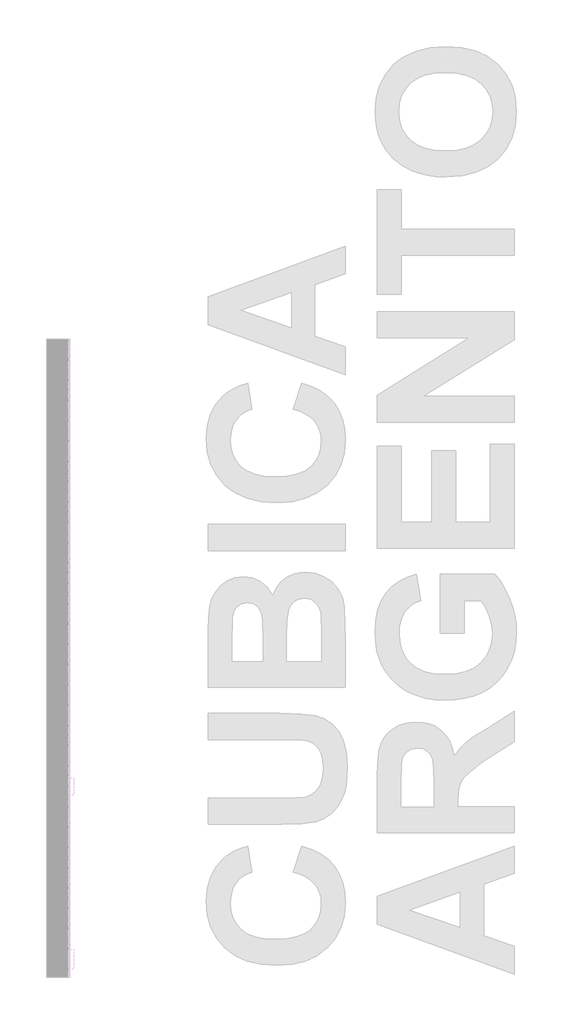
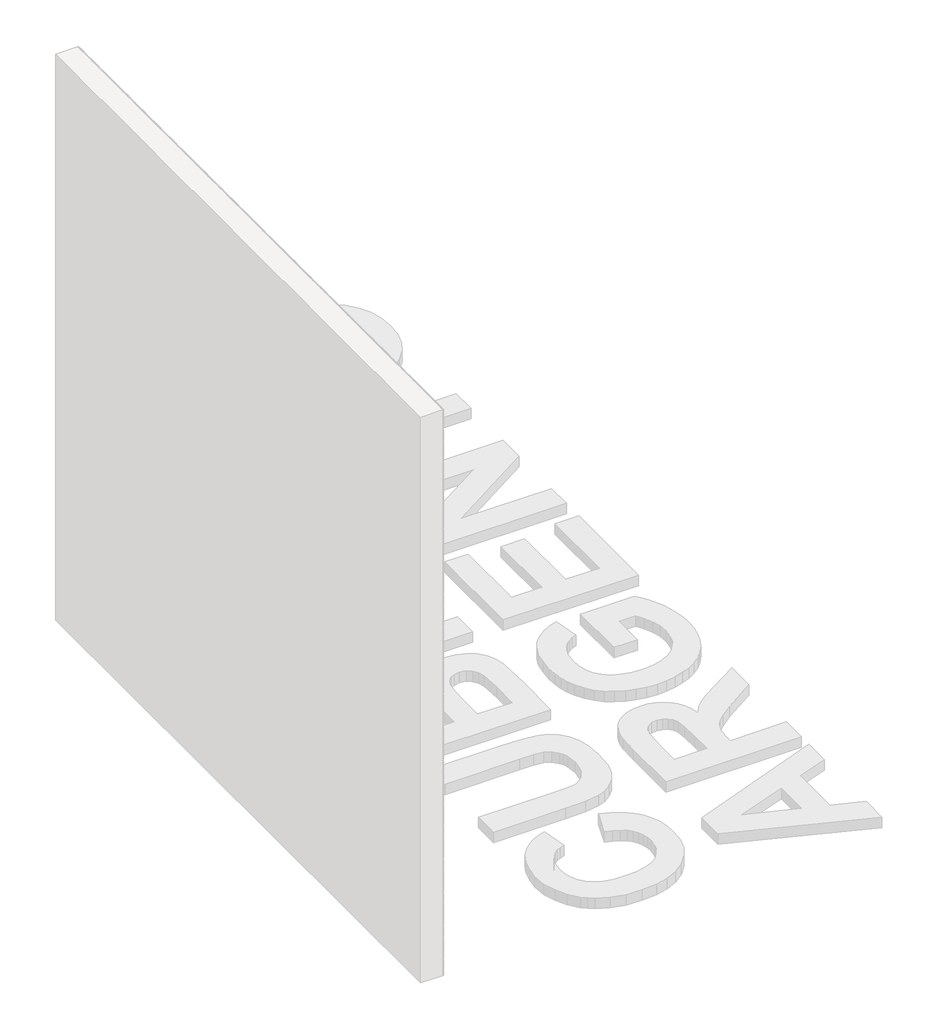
# One storey, part 19 of 121: 145 proxies.
"""IFC4 building model written with IfcOpenShell, lengths in millimetres."""

from ifc_helpers import new_model, si_unit, origin, place, context, project, spatial, transform, mapped, element, save
from components import generic_models_b2b2c5c1, generic_models_9bf73f6f, generic_models_5d175859

model = new_model("IFC4")

# Units and contexts
model_context = context("Model", 3, world=origin())
ifc_project = project(units=[si_unit("LENGTHUNIT", "METRE", prefix="MILLI")], contexts=[model_context])

# Site, building, storey
site = spatial("IfcSite", under=ifc_project)
building = spatial("IfcBuilding", under=site)
storey = spatial("IfcBuildingStorey", under=building, Name="PORTOBELLO - SHOWROOM", Elevation=0.0)

# Proxies
placement = place(None, origin())
generic_models_shape = generic_models_b2b2c5c1(model_context)
element("IfcBuildingElementProxy", 1, Name="PBSHOP - CUBICA ARGENTO 4,8X8,3 : CUBICA ARGENTO - POSIÇÃO 01", ObjectType="PBSHOP - CUBICA ARGENTO 4,8X8,3 : CUBICA ARGENTO - POSIÇÃO 01", at=placement, inside=storey, context=model_context, shape_type="MappedRepresentation", body=[
    mapped(generic_models_shape, transform((150369.5341846, -4223.3097926, 2091.7227645), x_axis=(0.0, 1.0, 0.0), y_axis=(0.0, 0.0, 1.0), z_axis=(1.0, 0.0, 0.0))),
])
element("IfcBuildingElementProxy", 2, Name="PBSHOP - CUBICA ARGENTO 4,8X8,3 : CUBICA ARGENTO - POSIÇÃO 01", ObjectType="PBSHOP - CUBICA ARGENTO 4,8X8,3 : CUBICA ARGENTO - POSIÇÃO 01", at=placement, inside=storey, context=model_context, shape_type="MappedRepresentation", body=[
    mapped(generic_models_shape, transform((150369.5341846, -4132.4705233, 2091.7227645), x_axis=(0.0, 1.0, 0.0), y_axis=(0.0, 0.0, 1.0), z_axis=(1.0, 0.0, 0.0))),
])
element("IfcBuildingElementProxy", 3, Name="PBSHOP - CUBICA ARGENTO 4,8X8,3 : CUBICA ARGENTO - POSIÇÃO 01", ObjectType="PBSHOP - CUBICA ARGENTO 4,8X8,3 : CUBICA ARGENTO - POSIÇÃO 01", at=placement, inside=storey, context=model_context, shape_type="MappedRepresentation", body=[
    mapped(generic_models_shape, transform((150369.5341846, -4041.6312541, 2091.7227645), x_axis=(0.0, 1.0, 0.0), y_axis=(0.0, 0.0, 1.0), z_axis=(1.0, 0.0, 0.0))),
])
element("IfcBuildingElementProxy", 4, Name="PBSHOP - CUBICA ARGENTO 4,8X8,3 : CUBICA ARGENTO - POSIÇÃO 01", ObjectType="PBSHOP - CUBICA ARGENTO 4,8X8,3 : CUBICA ARGENTO - POSIÇÃO 01", at=placement, inside=storey, context=model_context, shape_type="MappedRepresentation", body=[
    mapped(generic_models_shape, transform((150369.5341846, -4995.4435811, 2170.6574029), x_axis=(0.0, 1.0, 0.0), y_axis=(0.0, 0.0, 1.0), z_axis=(1.0, 0.0, 0.0))),
])
element("IfcBuildingElementProxy", 5, Name="PBSHOP - CUBICA ARGENTO 4,8X8,3 : CUBICA ARGENTO - POSIÇÃO 01", ObjectType="PBSHOP - CUBICA ARGENTO 4,8X8,3 : CUBICA ARGENTO - POSIÇÃO 01", at=placement, inside=storey, context=model_context, shape_type="MappedRepresentation", body=[
    mapped(generic_models_shape, transform((150369.5341846, -4904.6043119, 2170.6574029), x_axis=(0.0, 1.0, 0.0), y_axis=(0.0, 0.0, 1.0), z_axis=(1.0, 0.0, 0.0))),
])
element("IfcBuildingElementProxy", 6, Name="PBSHOP - CUBICA ARGENTO 4,8X8,3 : CUBICA ARGENTO - POSIÇÃO 01", ObjectType="PBSHOP - CUBICA ARGENTO 4,8X8,3 : CUBICA ARGENTO - POSIÇÃO 01", at=placement, inside=storey, context=model_context, shape_type="MappedRepresentation", body=[
    mapped(generic_models_shape, transform((150369.5341846, -4813.7650427, 2170.6574029), x_axis=(0.0, 1.0, 0.0), y_axis=(0.0, 0.0, 1.0), z_axis=(1.0, 0.0, 0.0))),
])
element("IfcBuildingElementProxy", 7, Name="PBSHOP - CUBICA ARGENTO 4,8X8,3 : CUBICA ARGENTO - POSIÇÃO 01", ObjectType="PBSHOP - CUBICA ARGENTO 4,8X8,3 : CUBICA ARGENTO - POSIÇÃO 01", at=placement, inside=storey, context=model_context, shape_type="MappedRepresentation", body=[
    mapped(generic_models_shape, transform((150369.5341846, -4722.9257734, 2170.6574029), x_axis=(0.0, 1.0, 0.0), y_axis=(0.0, 0.0, 1.0), z_axis=(1.0, 0.0, 0.0))),
])
element("IfcBuildingElementProxy", 8, Name="PBSHOP - CUBICA ARGENTO 4,8X8,3 : CUBICA ARGENTO - POSIÇÃO 01", ObjectType="PBSHOP - CUBICA ARGENTO 4,8X8,3 : CUBICA ARGENTO - POSIÇÃO 01", at=placement, inside=storey, context=model_context, shape_type="MappedRepresentation", body=[
    mapped(generic_models_shape, transform((150369.5341846, -4632.0865042, 2170.6574029), x_axis=(0.0, 1.0, 0.0), y_axis=(0.0, 0.0, 1.0), z_axis=(1.0, 0.0, 0.0))),
])
element("IfcBuildingElementProxy", 9, Name="PBSHOP - CUBICA ARGENTO 4,8X8,3 : CUBICA ARGENTO - POSIÇÃO 01", ObjectType="PBSHOP - CUBICA ARGENTO 4,8X8,3 : CUBICA ARGENTO - POSIÇÃO 01", at=placement, inside=storey, context=model_context, shape_type="MappedRepresentation", body=[
    mapped(generic_models_shape, transform((150369.5341846, -4541.2472349, 2170.6574029), x_axis=(0.0, 1.0, 0.0), y_axis=(0.0, 0.0, 1.0), z_axis=(1.0, 0.0, 0.0))),
])
element("IfcBuildingElementProxy", 10, Name="PBSHOP - CUBICA ARGENTO 4,8X8,3 : CUBICA ARGENTO - POSIÇÃO 01", ObjectType="PBSHOP - CUBICA ARGENTO 4,8X8,3 : CUBICA ARGENTO - POSIÇÃO 01", at=placement, inside=storey, context=model_context, shape_type="MappedRepresentation", body=[
    mapped(generic_models_shape, transform((150369.5341846, -4450.4079657, 2170.6574029), x_axis=(0.0, 1.0, 0.0), y_axis=(0.0, 0.0, 1.0), z_axis=(1.0, 0.0, 0.0))),
])
element("IfcBuildingElementProxy", 11, Name="PBSHOP - CUBICA ARGENTO 4,8X8,3 : CUBICA ARGENTO - POSIÇÃO 01", ObjectType="PBSHOP - CUBICA ARGENTO 4,8X8,3 : CUBICA ARGENTO - POSIÇÃO 01", at=placement, inside=storey, context=model_context, shape_type="MappedRepresentation", body=[
    mapped(generic_models_shape, transform((150369.5341846, -4359.5686964, 2170.6574029), x_axis=(0.0, 1.0, 0.0), y_axis=(0.0, 0.0, 1.0), z_axis=(1.0, 0.0, 0.0))),
])
element("IfcBuildingElementProxy", 12, Name="PBSHOP - CUBICA ARGENTO 4,8X8,3 : CUBICA ARGENTO - POSIÇÃO 01", ObjectType="PBSHOP - CUBICA ARGENTO 4,8X8,3 : CUBICA ARGENTO - POSIÇÃO 01", at=placement, inside=storey, context=model_context, shape_type="MappedRepresentation", body=[
    mapped(generic_models_shape, transform((150369.5341846, -4268.7294272, 2170.6574029), x_axis=(0.0, 1.0, 0.0), y_axis=(0.0, 0.0, 1.0), z_axis=(1.0, 0.0, 0.0))),
])
element("IfcBuildingElementProxy", 13, Name="PBSHOP - CUBICA ARGENTO 4,8X8,3 : CUBICA ARGENTO - POSIÇÃO 01", ObjectType="PBSHOP - CUBICA ARGENTO 4,8X8,3 : CUBICA ARGENTO - POSIÇÃO 01", at=placement, inside=storey, context=model_context, shape_type="MappedRepresentation", body=[
    mapped(generic_models_shape, transform((150369.5341846, -4177.890158, 2170.6574029), x_axis=(0.0, 1.0, 0.0), y_axis=(0.0, 0.0, 1.0), z_axis=(1.0, 0.0, 0.0))),
])
element("IfcBuildingElementProxy", 14, Name="PBSHOP - CUBICA ARGENTO 4,8X8,3 : CUBICA ARGENTO - POSIÇÃO 01", ObjectType="PBSHOP - CUBICA ARGENTO 4,8X8,3 : CUBICA ARGENTO - POSIÇÃO 01", at=placement, inside=storey, context=model_context, shape_type="MappedRepresentation", body=[
    mapped(generic_models_shape, transform((150369.5341846, -4087.0508887, 2170.6574029), x_axis=(0.0, 1.0, 0.0), y_axis=(0.0, 0.0, 1.0), z_axis=(1.0, 0.0, 0.0))),
])
element("IfcBuildingElementProxy", 15, Name="PBSHOP - CUBICA ARGENTO 4,8X8,3 : CUBICA ARGENTO - POSIÇÃO 01", ObjectType="PBSHOP - CUBICA ARGENTO 4,8X8,3 : CUBICA ARGENTO - POSIÇÃO 01", at=placement, inside=storey, context=model_context, shape_type="MappedRepresentation", body=[
    mapped(generic_models_shape, transform((150369.5341846, -4950.0239465, 2249.5920413), x_axis=(0.0, 1.0, 0.0), y_axis=(0.0, 0.0, 1.0), z_axis=(1.0, 0.0, 0.0))),
])
element("IfcBuildingElementProxy", 16, Name="PBSHOP - CUBICA ARGENTO 4,8X8,3 : CUBICA ARGENTO - POSIÇÃO 01", ObjectType="PBSHOP - CUBICA ARGENTO 4,8X8,3 : CUBICA ARGENTO - POSIÇÃO 01", at=placement, inside=storey, context=model_context, shape_type="MappedRepresentation", body=[
    mapped(generic_models_shape, transform((150369.5341846, -4859.1846773, 2249.5920413), x_axis=(0.0, 1.0, 0.0), y_axis=(0.0, 0.0, 1.0), z_axis=(1.0, 0.0, 0.0))),
])
element("IfcBuildingElementProxy", 17, Name="PBSHOP - CUBICA ARGENTO 4,8X8,3 : CUBICA ARGENTO - POSIÇÃO 01", ObjectType="PBSHOP - CUBICA ARGENTO 4,8X8,3 : CUBICA ARGENTO - POSIÇÃO 01", at=placement, inside=storey, context=model_context, shape_type="MappedRepresentation", body=[
    mapped(generic_models_shape, transform((150369.5341846, -4768.345408, 2249.5920413), x_axis=(0.0, 1.0, 0.0), y_axis=(0.0, 0.0, 1.0), z_axis=(1.0, 0.0, 0.0))),
])
element("IfcBuildingElementProxy", 18, Name="PBSHOP - CUBICA ARGENTO 4,8X8,3 : CUBICA ARGENTO - POSIÇÃO 01", ObjectType="PBSHOP - CUBICA ARGENTO 4,8X8,3 : CUBICA ARGENTO - POSIÇÃO 01", at=placement, inside=storey, context=model_context, shape_type="MappedRepresentation", body=[
    mapped(generic_models_shape, transform((150369.5341846, -4677.5061388, 2249.5920413), x_axis=(0.0, 1.0, 0.0), y_axis=(0.0, 0.0, 1.0), z_axis=(1.0, 0.0, 0.0))),
])
element("IfcBuildingElementProxy", 19, Name="PBSHOP - CUBICA ARGENTO 4,8X8,3 : CUBICA ARGENTO - POSIÇÃO 01", ObjectType="PBSHOP - CUBICA ARGENTO 4,8X8,3 : CUBICA ARGENTO - POSIÇÃO 01", at=placement, inside=storey, context=model_context, shape_type="MappedRepresentation", body=[
    mapped(generic_models_shape, transform((150369.5341846, -4586.6668696, 2249.5920413), x_axis=(0.0, 1.0, 0.0), y_axis=(0.0, 0.0, 1.0), z_axis=(1.0, 0.0, 0.0))),
])
element("IfcBuildingElementProxy", 20, Name="PBSHOP - CUBICA ARGENTO 4,8X8,3 : CUBICA ARGENTO - POSIÇÃO 01", ObjectType="PBSHOP - CUBICA ARGENTO 4,8X8,3 : CUBICA ARGENTO - POSIÇÃO 01", at=placement, inside=storey, context=model_context, shape_type="MappedRepresentation", body=[
    mapped(generic_models_shape, transform((150369.5341846, -4495.8276003, 2249.5920413), x_axis=(0.0, 1.0, 0.0), y_axis=(0.0, 0.0, 1.0), z_axis=(1.0, 0.0, 0.0))),
])
element("IfcBuildingElementProxy", 21, Name="PBSHOP - CUBICA ARGENTO 4,8X8,3 : CUBICA ARGENTO - POSIÇÃO 01", ObjectType="PBSHOP - CUBICA ARGENTO 4,8X8,3 : CUBICA ARGENTO - POSIÇÃO 01", at=placement, inside=storey, context=model_context, shape_type="MappedRepresentation", body=[
    mapped(generic_models_shape, transform((150369.5341846, -4404.9883311, 2249.5920413), x_axis=(0.0, 1.0, 0.0), y_axis=(0.0, 0.0, 1.0), z_axis=(1.0, 0.0, 0.0))),
])
element("IfcBuildingElementProxy", 22, Name="PBSHOP - CUBICA ARGENTO 4,8X8,3 : CUBICA ARGENTO - POSIÇÃO 01", ObjectType="PBSHOP - CUBICA ARGENTO 4,8X8,3 : CUBICA ARGENTO - POSIÇÃO 01", at=placement, inside=storey, context=model_context, shape_type="MappedRepresentation", body=[
    mapped(generic_models_shape, transform((150369.5341846, -4314.1490618, 2249.5920413), x_axis=(0.0, 1.0, 0.0), y_axis=(0.0, 0.0, 1.0), z_axis=(1.0, 0.0, 0.0))),
])
element("IfcBuildingElementProxy", 23, Name="PBSHOP - CUBICA ARGENTO 4,8X8,3 : CUBICA ARGENTO - POSIÇÃO 01", ObjectType="PBSHOP - CUBICA ARGENTO 4,8X8,3 : CUBICA ARGENTO - POSIÇÃO 01", at=placement, inside=storey, context=model_context, shape_type="MappedRepresentation", body=[
    mapped(generic_models_shape, transform((150369.5341846, -4223.3097926, 2249.5920413), x_axis=(0.0, 1.0, 0.0), y_axis=(0.0, 0.0, 1.0), z_axis=(1.0, 0.0, 0.0))),
])
element("IfcBuildingElementProxy", 24, Name="PBSHOP - CUBICA ARGENTO 4,8X8,3 : CUBICA ARGENTO - POSIÇÃO 01", ObjectType="PBSHOP - CUBICA ARGENTO 4,8X8,3 : CUBICA ARGENTO - POSIÇÃO 01", at=placement, inside=storey, context=model_context, shape_type="MappedRepresentation", body=[
    mapped(generic_models_shape, transform((150369.5341846, -4132.4705233, 2249.5920413), x_axis=(0.0, 1.0, 0.0), y_axis=(0.0, 0.0, 1.0), z_axis=(1.0, 0.0, 0.0))),
])
element("IfcBuildingElementProxy", 25, Name="PBSHOP - CUBICA ARGENTO 4,8X8,3 : CUBICA ARGENTO - POSIÇÃO 01", ObjectType="PBSHOP - CUBICA ARGENTO 4,8X8,3 : CUBICA ARGENTO - POSIÇÃO 01", at=placement, inside=storey, context=model_context, shape_type="MappedRepresentation", body=[
    mapped(generic_models_shape, transform((150369.5341846, -4041.6312541, 2249.5920413), x_axis=(0.0, 1.0, 0.0), y_axis=(0.0, 0.0, 1.0), z_axis=(1.0, 0.0, 0.0))),
])
element("IfcBuildingElementProxy", 26, Name="PBSHOP - CUBICA ARGENTO 4,8X8,3 : CUBICA ARGENTO - POSIÇÃO 01", ObjectType="PBSHOP - CUBICA ARGENTO 4,8X8,3 : CUBICA ARGENTO - POSIÇÃO 01", at=placement, inside=storey, context=model_context, shape_type="MappedRepresentation", body=[
    mapped(generic_models_shape, transform((150369.5341846, -4995.4435811, 2328.5266797), x_axis=(0.0, 1.0, 0.0), y_axis=(0.0, 0.0, 1.0), z_axis=(1.0, 0.0, 0.0))),
])
element("IfcBuildingElementProxy", 27, Name="PBSHOP - CUBICA ARGENTO 4,8X8,3 : CUBICA ARGENTO - POSIÇÃO 01", ObjectType="PBSHOP - CUBICA ARGENTO 4,8X8,3 : CUBICA ARGENTO - POSIÇÃO 01", at=placement, inside=storey, context=model_context, shape_type="MappedRepresentation", body=[
    mapped(generic_models_shape, transform((150369.5341846, -4904.6043119, 2328.5266797), x_axis=(0.0, 1.0, 0.0), y_axis=(0.0, 0.0, 1.0), z_axis=(1.0, 0.0, 0.0))),
])
element("IfcBuildingElementProxy", 28, Name="PBSHOP - CUBICA ARGENTO 4,8X8,3 : CUBICA ARGENTO - POSIÇÃO 01", ObjectType="PBSHOP - CUBICA ARGENTO 4,8X8,3 : CUBICA ARGENTO - POSIÇÃO 01", at=placement, inside=storey, context=model_context, shape_type="MappedRepresentation", body=[
    mapped(generic_models_shape, transform((150369.5341846, -4813.7650427, 2328.5266797), x_axis=(0.0, 1.0, 0.0), y_axis=(0.0, 0.0, 1.0), z_axis=(1.0, 0.0, 0.0))),
])
element("IfcBuildingElementProxy", 29, Name="PBSHOP - CUBICA ARGENTO 4,8X8,3 : CUBICA ARGENTO - POSIÇÃO 01", ObjectType="PBSHOP - CUBICA ARGENTO 4,8X8,3 : CUBICA ARGENTO - POSIÇÃO 01", at=placement, inside=storey, context=model_context, shape_type="MappedRepresentation", body=[
    mapped(generic_models_shape, transform((150369.5341846, -4722.9257734, 2328.5266797), x_axis=(0.0, 1.0, 0.0), y_axis=(0.0, 0.0, 1.0), z_axis=(1.0, 0.0, 0.0))),
])
element("IfcBuildingElementProxy", 30, Name="PBSHOP - CUBICA ARGENTO 4,8X8,3 : CUBICA ARGENTO - POSIÇÃO 01", ObjectType="PBSHOP - CUBICA ARGENTO 4,8X8,3 : CUBICA ARGENTO - POSIÇÃO 01", at=placement, inside=storey, context=model_context, shape_type="MappedRepresentation", body=[
    mapped(generic_models_shape, transform((150369.5341846, -4632.0865042, 2328.5266797), x_axis=(0.0, 1.0, 0.0), y_axis=(0.0, 0.0, 1.0), z_axis=(1.0, 0.0, 0.0))),
])
element("IfcBuildingElementProxy", 31, Name="PBSHOP - CUBICA ARGENTO 4,8X8,3 : CUBICA ARGENTO - POSIÇÃO 01", ObjectType="PBSHOP - CUBICA ARGENTO 4,8X8,3 : CUBICA ARGENTO - POSIÇÃO 01", at=placement, inside=storey, context=model_context, shape_type="MappedRepresentation", body=[
    mapped(generic_models_shape, transform((150369.5341846, -4541.2472349, 2328.5266797), x_axis=(0.0, 1.0, 0.0), y_axis=(0.0, 0.0, 1.0), z_axis=(1.0, 0.0, 0.0))),
])
element("IfcBuildingElementProxy", 32, Name="PBSHOP - CUBICA ARGENTO 4,8X8,3 : CUBICA ARGENTO - POSIÇÃO 01", ObjectType="PBSHOP - CUBICA ARGENTO 4,8X8,3 : CUBICA ARGENTO - POSIÇÃO 01", at=placement, inside=storey, context=model_context, shape_type="MappedRepresentation", body=[
    mapped(generic_models_shape, transform((150369.5341846, -4450.4079657, 2328.5266797), x_axis=(0.0, 1.0, 0.0), y_axis=(0.0, 0.0, 1.0), z_axis=(1.0, 0.0, 0.0))),
])
element("IfcBuildingElementProxy", 33, Name="PBSHOP - CUBICA ARGENTO 4,8X8,3 : CUBICA ARGENTO - POSIÇÃO 01", ObjectType="PBSHOP - CUBICA ARGENTO 4,8X8,3 : CUBICA ARGENTO - POSIÇÃO 01", at=placement, inside=storey, context=model_context, shape_type="MappedRepresentation", body=[
    mapped(generic_models_shape, transform((150369.5341846, -4359.5686964, 2328.5266797), x_axis=(0.0, 1.0, 0.0), y_axis=(0.0, 0.0, 1.0), z_axis=(1.0, 0.0, 0.0))),
])
element("IfcBuildingElementProxy", 34, Name="PBSHOP - CUBICA ARGENTO 4,8X8,3 : CUBICA ARGENTO - POSIÇÃO 01", ObjectType="PBSHOP - CUBICA ARGENTO 4,8X8,3 : CUBICA ARGENTO - POSIÇÃO 01", at=placement, inside=storey, context=model_context, shape_type="MappedRepresentation", body=[
    mapped(generic_models_shape, transform((150369.5341846, -4268.7294272, 2328.5266797), x_axis=(0.0, 1.0, 0.0), y_axis=(0.0, 0.0, 1.0), z_axis=(1.0, 0.0, 0.0))),
])
element("IfcBuildingElementProxy", 35, Name="PBSHOP - CUBICA ARGENTO 4,8X8,3 : CUBICA ARGENTO - POSIÇÃO 01", ObjectType="PBSHOP - CUBICA ARGENTO 4,8X8,3 : CUBICA ARGENTO - POSIÇÃO 01", at=placement, inside=storey, context=model_context, shape_type="MappedRepresentation", body=[
    mapped(generic_models_shape, transform((150369.5341846, -4177.890158, 2328.5266797), x_axis=(0.0, 1.0, 0.0), y_axis=(0.0, 0.0, 1.0), z_axis=(1.0, 0.0, 0.0))),
])
element("IfcBuildingElementProxy", 36, Name="PBSHOP - CUBICA ARGENTO 4,8X8,3 : CUBICA ARGENTO - POSIÇÃO 01", ObjectType="PBSHOP - CUBICA ARGENTO 4,8X8,3 : CUBICA ARGENTO - POSIÇÃO 01", at=placement, inside=storey, context=model_context, shape_type="MappedRepresentation", body=[
    mapped(generic_models_shape, transform((150369.5341846, -4087.0508887, 2328.5266797), x_axis=(0.0, 1.0, 0.0), y_axis=(0.0, 0.0, 1.0), z_axis=(1.0, 0.0, 0.0))),
])
element("IfcBuildingElementProxy", 37, Name="PBSHOP - CUBICA ARGENTO 4,8X8,3 : CUBICA ARGENTO - POSIÇÃO 01", ObjectType="PBSHOP - CUBICA ARGENTO 4,8X8,3 : CUBICA ARGENTO - POSIÇÃO 01", at=placement, inside=storey, context=model_context, shape_type="MappedRepresentation", body=[
    mapped(generic_models_shape, transform((150369.5341846, -4950.0239465, 2407.461318), x_axis=(0.0, 1.0, 0.0), y_axis=(0.0, 0.0, 1.0), z_axis=(1.0, 0.0, 0.0))),
])
element("IfcBuildingElementProxy", 38, Name="PBSHOP - CUBICA ARGENTO 4,8X8,3 : CUBICA ARGENTO - POSIÇÃO 01", ObjectType="PBSHOP - CUBICA ARGENTO 4,8X8,3 : CUBICA ARGENTO - POSIÇÃO 01", at=placement, inside=storey, context=model_context, shape_type="MappedRepresentation", body=[
    mapped(generic_models_shape, transform((150369.5341846, -4859.1846773, 2407.461318), x_axis=(0.0, 1.0, 0.0), y_axis=(0.0, 0.0, 1.0), z_axis=(1.0, 0.0, 0.0))),
])
element("IfcBuildingElementProxy", 39, Name="PBSHOP - CUBICA ARGENTO 4,8X8,3 : CUBICA ARGENTO - POSIÇÃO 01", ObjectType="PBSHOP - CUBICA ARGENTO 4,8X8,3 : CUBICA ARGENTO - POSIÇÃO 01", at=placement, inside=storey, context=model_context, shape_type="MappedRepresentation", body=[
    mapped(generic_models_shape, transform((150369.5341846, -4768.345408, 2407.461318), x_axis=(0.0, 1.0, 0.0), y_axis=(0.0, 0.0, 1.0), z_axis=(1.0, 0.0, 0.0))),
])
element("IfcBuildingElementProxy", 40, Name="PBSHOP - CUBICA ARGENTO 4,8X8,3 : CUBICA ARGENTO - POSIÇÃO 01", ObjectType="PBSHOP - CUBICA ARGENTO 4,8X8,3 : CUBICA ARGENTO - POSIÇÃO 01", at=placement, inside=storey, context=model_context, shape_type="MappedRepresentation", body=[
    mapped(generic_models_shape, transform((150369.5341846, -4677.5061388, 2407.461318), x_axis=(0.0, 1.0, 0.0), y_axis=(0.0, 0.0, 1.0), z_axis=(1.0, 0.0, 0.0))),
])
element("IfcBuildingElementProxy", 41, Name="PBSHOP - CUBICA ARGENTO 4,8X8,3 : CUBICA ARGENTO - POSIÇÃO 01", ObjectType="PBSHOP - CUBICA ARGENTO 4,8X8,3 : CUBICA ARGENTO - POSIÇÃO 01", at=placement, inside=storey, context=model_context, shape_type="MappedRepresentation", body=[
    mapped(generic_models_shape, transform((150369.5341846, -4586.6668696, 2407.461318), x_axis=(0.0, 1.0, 0.0), y_axis=(0.0, 0.0, 1.0), z_axis=(1.0, 0.0, 0.0))),
])
element("IfcBuildingElementProxy", 42, Name="PBSHOP - CUBICA ARGENTO 4,8X8,3 : CUBICA ARGENTO - POSIÇÃO 01", ObjectType="PBSHOP - CUBICA ARGENTO 4,8X8,3 : CUBICA ARGENTO - POSIÇÃO 01", at=placement, inside=storey, context=model_context, shape_type="MappedRepresentation", body=[
    mapped(generic_models_shape, transform((150369.5341846, -4495.8276003, 2407.461318), x_axis=(0.0, 1.0, 0.0), y_axis=(0.0, 0.0, 1.0), z_axis=(1.0, 0.0, 0.0))),
])
element("IfcBuildingElementProxy", 43, Name="PBSHOP - CUBICA ARGENTO 4,8X8,3 : CUBICA ARGENTO - POSIÇÃO 01", ObjectType="PBSHOP - CUBICA ARGENTO 4,8X8,3 : CUBICA ARGENTO - POSIÇÃO 01", at=placement, inside=storey, context=model_context, shape_type="MappedRepresentation", body=[
    mapped(generic_models_shape, transform((150369.5341846, -4404.9883311, 2407.461318), x_axis=(0.0, 1.0, 0.0), y_axis=(0.0, 0.0, 1.0), z_axis=(1.0, 0.0, 0.0))),
])
element("IfcBuildingElementProxy", 44, Name="PBSHOP - CUBICA ARGENTO 4,8X8,3 : CUBICA ARGENTO - POSIÇÃO 01", ObjectType="PBSHOP - CUBICA ARGENTO 4,8X8,3 : CUBICA ARGENTO - POSIÇÃO 01", at=placement, inside=storey, context=model_context, shape_type="MappedRepresentation", body=[
    mapped(generic_models_shape, transform((150369.5341846, -4314.1490618, 2407.461318), x_axis=(0.0, 1.0, 0.0), y_axis=(0.0, 0.0, 1.0), z_axis=(1.0, 0.0, 0.0))),
])
element("IfcBuildingElementProxy", 45, Name="PBSHOP - CUBICA ARGENTO 4,8X8,3 : CUBICA ARGENTO - POSIÇÃO 01", ObjectType="PBSHOP - CUBICA ARGENTO 4,8X8,3 : CUBICA ARGENTO - POSIÇÃO 01", at=placement, inside=storey, context=model_context, shape_type="MappedRepresentation", body=[
    mapped(generic_models_shape, transform((150369.5341846, -4223.3097926, 2407.461318), x_axis=(0.0, 1.0, 0.0), y_axis=(0.0, 0.0, 1.0), z_axis=(1.0, 0.0, 0.0))),
])
element("IfcBuildingElementProxy", 46, Name="PBSHOP - CUBICA ARGENTO 4,8X8,3 : CUBICA ARGENTO - POSIÇÃO 01", ObjectType="PBSHOP - CUBICA ARGENTO 4,8X8,3 : CUBICA ARGENTO - POSIÇÃO 01", at=placement, inside=storey, context=model_context, shape_type="MappedRepresentation", body=[
    mapped(generic_models_shape, transform((150369.5341846, -4132.4705233, 2407.461318), x_axis=(0.0, 1.0, 0.0), y_axis=(0.0, 0.0, 1.0), z_axis=(1.0, 0.0, 0.0))),
])
element("IfcBuildingElementProxy", 47, Name="PBSHOP - CUBICA ARGENTO 4,8X8,3 : CUBICA ARGENTO - POSIÇÃO 01", ObjectType="PBSHOP - CUBICA ARGENTO 4,8X8,3 : CUBICA ARGENTO - POSIÇÃO 01", at=placement, inside=storey, context=model_context, shape_type="MappedRepresentation", body=[
    mapped(generic_models_shape, transform((150369.5341846, -4041.6312541, 2407.461318), x_axis=(0.0, 1.0, 0.0), y_axis=(0.0, 0.0, 1.0), z_axis=(1.0, 0.0, 0.0))),
])
generic_models_2_shape = generic_models_9bf73f6f(model_context)
element("IfcBuildingElementProxy", 48, Name="PBSHOP - CUBICA ARGENTO 4,8X8,3 : CUBICA ARGENTO - POSIÇÃO 03", ObjectType="PBSHOP - CUBICA ARGENTO 4,8X8,3 : CUBICA ARGENTO - POSIÇÃO 03", at=placement, inside=storey, context=model_context, shape_type="MappedRepresentation", body=[
    mapped(generic_models_2_shape, transform((150369.5341846, -4972.7316047, 2052.2142349), x_axis=(0.0, 1.0, 0.0), y_axis=(0.0, 0.0, 1.0), z_axis=(1.0, 0.0, 0.0))),
])
element("IfcBuildingElementProxy", 49, Name="PBSHOP - CUBICA ARGENTO 4,8X8,3 : CUBICA ARGENTO - POSIÇÃO 03", ObjectType="PBSHOP - CUBICA ARGENTO 4,8X8,3 : CUBICA ARGENTO - POSIÇÃO 03", at=placement, inside=storey, context=model_context, shape_type="MappedRepresentation", body=[
    mapped(generic_models_2_shape, transform((150369.5341846, -4881.8923354, 2052.2142349), x_axis=(0.0, 1.0, 0.0), y_axis=(0.0, 0.0, 1.0), z_axis=(1.0, 0.0, 0.0))),
])
element("IfcBuildingElementProxy", 50, Name="PBSHOP - CUBICA ARGENTO 4,8X8,3 : CUBICA ARGENTO - POSIÇÃO 03", ObjectType="PBSHOP - CUBICA ARGENTO 4,8X8,3 : CUBICA ARGENTO - POSIÇÃO 03", at=placement, inside=storey, context=model_context, shape_type="MappedRepresentation", body=[
    mapped(generic_models_2_shape, transform((150369.5341846, -4791.0530662, 2052.2142349), x_axis=(0.0, 1.0, 0.0), y_axis=(0.0, 0.0, 1.0), z_axis=(1.0, 0.0, 0.0))),
])
element("IfcBuildingElementProxy", 51, Name="PBSHOP - CUBICA ARGENTO 4,8X8,3 : CUBICA ARGENTO - POSIÇÃO 03", ObjectType="PBSHOP - CUBICA ARGENTO 4,8X8,3 : CUBICA ARGENTO - POSIÇÃO 03", at=placement, inside=storey, context=model_context, shape_type="MappedRepresentation", body=[
    mapped(generic_models_2_shape, transform((150369.5341846, -4700.2137969, 2052.2142349), x_axis=(0.0, 1.0, 0.0), y_axis=(0.0, 0.0, 1.0), z_axis=(1.0, 0.0, 0.0))),
])
element("IfcBuildingElementProxy", 52, Name="PBSHOP - CUBICA ARGENTO 4,8X8,3 : CUBICA ARGENTO - POSIÇÃO 03", ObjectType="PBSHOP - CUBICA ARGENTO 4,8X8,3 : CUBICA ARGENTO - POSIÇÃO 03", at=placement, inside=storey, context=model_context, shape_type="MappedRepresentation", body=[
    mapped(generic_models_2_shape, transform((150369.5341846, -4609.3745277, 2052.2142349), x_axis=(0.0, 1.0, 0.0), y_axis=(0.0, 0.0, 1.0), z_axis=(1.0, 0.0, 0.0))),
])
element("IfcBuildingElementProxy", 53, Name="PBSHOP - CUBICA ARGENTO 4,8X8,3 : CUBICA ARGENTO - POSIÇÃO 03", ObjectType="PBSHOP - CUBICA ARGENTO 4,8X8,3 : CUBICA ARGENTO - POSIÇÃO 03", at=placement, inside=storey, context=model_context, shape_type="MappedRepresentation", body=[
    mapped(generic_models_2_shape, transform((150369.5341846, -4518.5352585, 2052.2142349), x_axis=(0.0, 1.0, 0.0), y_axis=(0.0, 0.0, 1.0), z_axis=(1.0, 0.0, 0.0))),
])
element("IfcBuildingElementProxy", 54, Name="PBSHOP - CUBICA ARGENTO 4,8X8,3 : CUBICA ARGENTO - POSIÇÃO 03", ObjectType="PBSHOP - CUBICA ARGENTO 4,8X8,3 : CUBICA ARGENTO - POSIÇÃO 03", at=placement, inside=storey, context=model_context, shape_type="MappedRepresentation", body=[
    mapped(generic_models_2_shape, transform((150369.5341846, -4427.6959892, 2052.2142349), x_axis=(0.0, 1.0, 0.0), y_axis=(0.0, 0.0, 1.0), z_axis=(1.0, 0.0, 0.0))),
])
element("IfcBuildingElementProxy", 55, Name="PBSHOP - CUBICA ARGENTO 4,8X8,3 : CUBICA ARGENTO - POSIÇÃO 03", ObjectType="PBSHOP - CUBICA ARGENTO 4,8X8,3 : CUBICA ARGENTO - POSIÇÃO 03", at=placement, inside=storey, context=model_context, shape_type="MappedRepresentation", body=[
    mapped(generic_models_2_shape, transform((150369.5341846, -4336.85672, 2052.2142349), x_axis=(0.0, 1.0, 0.0), y_axis=(0.0, 0.0, 1.0), z_axis=(1.0, 0.0, 0.0))),
])
element("IfcBuildingElementProxy", 56, Name="PBSHOP - CUBICA ARGENTO 4,8X8,3 : CUBICA ARGENTO - POSIÇÃO 03", ObjectType="PBSHOP - CUBICA ARGENTO 4,8X8,3 : CUBICA ARGENTO - POSIÇÃO 03", at=placement, inside=storey, context=model_context, shape_type="MappedRepresentation", body=[
    mapped(generic_models_2_shape, transform((150369.5341846, -4246.0174507, 2052.2142349), x_axis=(0.0, 1.0, 0.0), y_axis=(0.0, 0.0, 1.0), z_axis=(1.0, 0.0, 0.0))),
])
element("IfcBuildingElementProxy", 57, Name="PBSHOP - CUBICA ARGENTO 4,8X8,3 : CUBICA ARGENTO - POSIÇÃO 03", ObjectType="PBSHOP - CUBICA ARGENTO 4,8X8,3 : CUBICA ARGENTO - POSIÇÃO 03", at=placement, inside=storey, context=model_context, shape_type="MappedRepresentation", body=[
    mapped(generic_models_2_shape, transform((150369.5341846, -4155.1781815, 2052.2142349), x_axis=(0.0, 1.0, 0.0), y_axis=(0.0, 0.0, 1.0), z_axis=(1.0, 0.0, 0.0))),
])
element("IfcBuildingElementProxy", 58, Name="PBSHOP - CUBICA ARGENTO 4,8X8,3 : CUBICA ARGENTO - POSIÇÃO 03", ObjectType="PBSHOP - CUBICA ARGENTO 4,8X8,3 : CUBICA ARGENTO - POSIÇÃO 03", at=placement, inside=storey, context=model_context, shape_type="MappedRepresentation", body=[
    mapped(generic_models_2_shape, transform((150369.5341846, -4064.3389122, 2052.2142349), x_axis=(0.0, 1.0, 0.0), y_axis=(0.0, 0.0, 1.0), z_axis=(1.0, 0.0, 0.0))),
])
element("IfcBuildingElementProxy", 59, Name="PBSHOP - CUBICA ARGENTO 4,8X8,3 : CUBICA ARGENTO - POSIÇÃO 03", ObjectType="PBSHOP - CUBICA ARGENTO 4,8X8,3 : CUBICA ARGENTO - POSIÇÃO 03", at=placement, inside=storey, context=model_context, shape_type="MappedRepresentation", body=[
    mapped(generic_models_2_shape, transform((150369.5341846, -4927.3119701, 2131.1488733), x_axis=(0.0, 1.0, 0.0), y_axis=(0.0, 0.0, 1.0), z_axis=(1.0, 0.0, 0.0))),
])
element("IfcBuildingElementProxy", 60, Name="PBSHOP - CUBICA ARGENTO 4,8X8,3 : CUBICA ARGENTO - POSIÇÃO 03", ObjectType="PBSHOP - CUBICA ARGENTO 4,8X8,3 : CUBICA ARGENTO - POSIÇÃO 03", at=placement, inside=storey, context=model_context, shape_type="MappedRepresentation", body=[
    mapped(generic_models_2_shape, transform((150369.5341846, -4836.4727008, 2131.1488733), x_axis=(0.0, 1.0, 0.0), y_axis=(0.0, 0.0, 1.0), z_axis=(1.0, 0.0, 0.0))),
])
element("IfcBuildingElementProxy", 61, Name="PBSHOP - CUBICA ARGENTO 4,8X8,3 : CUBICA ARGENTO - POSIÇÃO 03", ObjectType="PBSHOP - CUBICA ARGENTO 4,8X8,3 : CUBICA ARGENTO - POSIÇÃO 03", at=placement, inside=storey, context=model_context, shape_type="MappedRepresentation", body=[
    mapped(generic_models_2_shape, transform((150369.5341846, -4745.6334316, 2131.1488733), x_axis=(0.0, 1.0, 0.0), y_axis=(0.0, 0.0, 1.0), z_axis=(1.0, 0.0, 0.0))),
])
element("IfcBuildingElementProxy", 62, Name="PBSHOP - CUBICA ARGENTO 4,8X8,3 : CUBICA ARGENTO - POSIÇÃO 03", ObjectType="PBSHOP - CUBICA ARGENTO 4,8X8,3 : CUBICA ARGENTO - POSIÇÃO 03", at=placement, inside=storey, context=model_context, shape_type="MappedRepresentation", body=[
    mapped(generic_models_2_shape, transform((150369.5341846, -4654.7941623, 2131.1488733), x_axis=(0.0, 1.0, 0.0), y_axis=(0.0, 0.0, 1.0), z_axis=(1.0, 0.0, 0.0))),
])
element("IfcBuildingElementProxy", 63, Name="PBSHOP - CUBICA ARGENTO 4,8X8,3 : CUBICA ARGENTO - POSIÇÃO 03", ObjectType="PBSHOP - CUBICA ARGENTO 4,8X8,3 : CUBICA ARGENTO - POSIÇÃO 03", at=placement, inside=storey, context=model_context, shape_type="MappedRepresentation", body=[
    mapped(generic_models_2_shape, transform((150369.5341846, -4563.9548931, 2131.1488733), x_axis=(0.0, 1.0, 0.0), y_axis=(0.0, 0.0, 1.0), z_axis=(1.0, 0.0, 0.0))),
])
element("IfcBuildingElementProxy", 64, Name="PBSHOP - CUBICA ARGENTO 4,8X8,3 : CUBICA ARGENTO - POSIÇÃO 03", ObjectType="PBSHOP - CUBICA ARGENTO 4,8X8,3 : CUBICA ARGENTO - POSIÇÃO 03", at=placement, inside=storey, context=model_context, shape_type="MappedRepresentation", body=[
    mapped(generic_models_2_shape, transform((150369.5341846, -4473.1156238, 2131.1488733), x_axis=(0.0, 1.0, 0.0), y_axis=(0.0, 0.0, 1.0), z_axis=(1.0, 0.0, 0.0))),
])
element("IfcBuildingElementProxy", 65, Name="PBSHOP - CUBICA ARGENTO 4,8X8,3 : CUBICA ARGENTO - POSIÇÃO 03", ObjectType="PBSHOP - CUBICA ARGENTO 4,8X8,3 : CUBICA ARGENTO - POSIÇÃO 03", at=placement, inside=storey, context=model_context, shape_type="MappedRepresentation", body=[
    mapped(generic_models_2_shape, transform((150369.5341846, -4382.2763546, 2131.1488733), x_axis=(0.0, 1.0, 0.0), y_axis=(0.0, 0.0, 1.0), z_axis=(1.0, 0.0, 0.0))),
])
element("IfcBuildingElementProxy", 66, Name="PBSHOP - CUBICA ARGENTO 4,8X8,3 : CUBICA ARGENTO - POSIÇÃO 03", ObjectType="PBSHOP - CUBICA ARGENTO 4,8X8,3 : CUBICA ARGENTO - POSIÇÃO 03", at=placement, inside=storey, context=model_context, shape_type="MappedRepresentation", body=[
    mapped(generic_models_2_shape, transform((150369.5341846, -4291.4370853, 2131.1488733), x_axis=(0.0, 1.0, 0.0), y_axis=(0.0, 0.0, 1.0), z_axis=(1.0, 0.0, 0.0))),
])
element("IfcBuildingElementProxy", 67, Name="PBSHOP - CUBICA ARGENTO 4,8X8,3 : CUBICA ARGENTO - POSIÇÃO 03", ObjectType="PBSHOP - CUBICA ARGENTO 4,8X8,3 : CUBICA ARGENTO - POSIÇÃO 03", at=placement, inside=storey, context=model_context, shape_type="MappedRepresentation", body=[
    mapped(generic_models_2_shape, transform((150369.5341846, -4200.5978161, 2131.1488733), x_axis=(0.0, 1.0, 0.0), y_axis=(0.0, 0.0, 1.0), z_axis=(1.0, 0.0, 0.0))),
])
element("IfcBuildingElementProxy", 68, Name="PBSHOP - CUBICA ARGENTO 4,8X8,3 : CUBICA ARGENTO - POSIÇÃO 03", ObjectType="PBSHOP - CUBICA ARGENTO 4,8X8,3 : CUBICA ARGENTO - POSIÇÃO 03", at=placement, inside=storey, context=model_context, shape_type="MappedRepresentation", body=[
    mapped(generic_models_2_shape, transform((150369.5341846, -4109.7585469, 2131.1488733), x_axis=(0.0, 1.0, 0.0), y_axis=(0.0, 0.0, 1.0), z_axis=(1.0, 0.0, 0.0))),
])
element("IfcBuildingElementProxy", 69, Name="PBSHOP - CUBICA ARGENTO 4,8X8,3 : CUBICA ARGENTO - POSIÇÃO 03", ObjectType="PBSHOP - CUBICA ARGENTO 4,8X8,3 : CUBICA ARGENTO - POSIÇÃO 03", at=placement, inside=storey, context=model_context, shape_type="MappedRepresentation", body=[
    mapped(generic_models_2_shape, transform((150369.5341846, -4018.9192776, 2131.1488733), x_axis=(0.0, 1.0, 0.0), y_axis=(0.0, 0.0, 1.0), z_axis=(1.0, 0.0, 0.0))),
])
element("IfcBuildingElementProxy", 70, Name="PBSHOP - CUBICA ARGENTO 4,8X8,3 : CUBICA ARGENTO - POSIÇÃO 03", ObjectType="PBSHOP - CUBICA ARGENTO 4,8X8,3 : CUBICA ARGENTO - POSIÇÃO 03", at=placement, inside=storey, context=model_context, shape_type="MappedRepresentation", body=[
    mapped(generic_models_2_shape, transform((150369.5341846, -4972.7316047, 2210.0835117), x_axis=(0.0, 1.0, 0.0), y_axis=(0.0, 0.0, 1.0), z_axis=(1.0, 0.0, 0.0))),
])
element("IfcBuildingElementProxy", 71, Name="PBSHOP - CUBICA ARGENTO 4,8X8,3 : CUBICA ARGENTO - POSIÇÃO 03", ObjectType="PBSHOP - CUBICA ARGENTO 4,8X8,3 : CUBICA ARGENTO - POSIÇÃO 03", at=placement, inside=storey, context=model_context, shape_type="MappedRepresentation", body=[
    mapped(generic_models_2_shape, transform((150369.5341846, -4881.8923354, 2210.0835117), x_axis=(0.0, 1.0, 0.0), y_axis=(0.0, 0.0, 1.0), z_axis=(1.0, 0.0, 0.0))),
])
element("IfcBuildingElementProxy", 72, Name="PBSHOP - CUBICA ARGENTO 4,8X8,3 : CUBICA ARGENTO - POSIÇÃO 03", ObjectType="PBSHOP - CUBICA ARGENTO 4,8X8,3 : CUBICA ARGENTO - POSIÇÃO 03", at=placement, inside=storey, context=model_context, shape_type="MappedRepresentation", body=[
    mapped(generic_models_2_shape, transform((150369.5341846, -4791.0530662, 2210.0835117), x_axis=(0.0, 1.0, 0.0), y_axis=(0.0, 0.0, 1.0), z_axis=(1.0, 0.0, 0.0))),
])
element("IfcBuildingElementProxy", 73, Name="PBSHOP - CUBICA ARGENTO 4,8X8,3 : CUBICA ARGENTO - POSIÇÃO 03", ObjectType="PBSHOP - CUBICA ARGENTO 4,8X8,3 : CUBICA ARGENTO - POSIÇÃO 03", at=placement, inside=storey, context=model_context, shape_type="MappedRepresentation", body=[
    mapped(generic_models_2_shape, transform((150369.5341846, -4700.2137969, 2210.0835117), x_axis=(0.0, 1.0, 0.0), y_axis=(0.0, 0.0, 1.0), z_axis=(1.0, 0.0, 0.0))),
])
element("IfcBuildingElementProxy", 74, Name="PBSHOP - CUBICA ARGENTO 4,8X8,3 : CUBICA ARGENTO - POSIÇÃO 03", ObjectType="PBSHOP - CUBICA ARGENTO 4,8X8,3 : CUBICA ARGENTO - POSIÇÃO 03", at=placement, inside=storey, context=model_context, shape_type="MappedRepresentation", body=[
    mapped(generic_models_2_shape, transform((150369.5341846, -4609.3745277, 2210.0835117), x_axis=(0.0, 1.0, 0.0), y_axis=(0.0, 0.0, 1.0), z_axis=(1.0, 0.0, 0.0))),
])
element("IfcBuildingElementProxy", 75, Name="PBSHOP - CUBICA ARGENTO 4,8X8,3 : CUBICA ARGENTO - POSIÇÃO 03", ObjectType="PBSHOP - CUBICA ARGENTO 4,8X8,3 : CUBICA ARGENTO - POSIÇÃO 03", at=placement, inside=storey, context=model_context, shape_type="MappedRepresentation", body=[
    mapped(generic_models_2_shape, transform((150369.5341846, -4518.5352585, 2210.0835117), x_axis=(0.0, 1.0, 0.0), y_axis=(0.0, 0.0, 1.0), z_axis=(1.0, 0.0, 0.0))),
])
element("IfcBuildingElementProxy", 76, Name="PBSHOP - CUBICA ARGENTO 4,8X8,3 : CUBICA ARGENTO - POSIÇÃO 03", ObjectType="PBSHOP - CUBICA ARGENTO 4,8X8,3 : CUBICA ARGENTO - POSIÇÃO 03", at=placement, inside=storey, context=model_context, shape_type="MappedRepresentation", body=[
    mapped(generic_models_2_shape, transform((150369.5341846, -4427.6959892, 2210.0835117), x_axis=(0.0, 1.0, 0.0), y_axis=(0.0, 0.0, 1.0), z_axis=(1.0, 0.0, 0.0))),
])
element("IfcBuildingElementProxy", 77, Name="PBSHOP - CUBICA ARGENTO 4,8X8,3 : CUBICA ARGENTO - POSIÇÃO 03", ObjectType="PBSHOP - CUBICA ARGENTO 4,8X8,3 : CUBICA ARGENTO - POSIÇÃO 03", at=placement, inside=storey, context=model_context, shape_type="MappedRepresentation", body=[
    mapped(generic_models_2_shape, transform((150369.5341846, -4336.85672, 2210.0835117), x_axis=(0.0, 1.0, 0.0), y_axis=(0.0, 0.0, 1.0), z_axis=(1.0, 0.0, 0.0))),
])
element("IfcBuildingElementProxy", 78, Name="PBSHOP - CUBICA ARGENTO 4,8X8,3 : CUBICA ARGENTO - POSIÇÃO 03", ObjectType="PBSHOP - CUBICA ARGENTO 4,8X8,3 : CUBICA ARGENTO - POSIÇÃO 03", at=placement, inside=storey, context=model_context, shape_type="MappedRepresentation", body=[
    mapped(generic_models_2_shape, transform((150369.5341846, -4246.0174507, 2210.0835117), x_axis=(0.0, 1.0, 0.0), y_axis=(0.0, 0.0, 1.0), z_axis=(1.0, 0.0, 0.0))),
])
element("IfcBuildingElementProxy", 79, Name="PBSHOP - CUBICA ARGENTO 4,8X8,3 : CUBICA ARGENTO - POSIÇÃO 03", ObjectType="PBSHOP - CUBICA ARGENTO 4,8X8,3 : CUBICA ARGENTO - POSIÇÃO 03", at=placement, inside=storey, context=model_context, shape_type="MappedRepresentation", body=[
    mapped(generic_models_2_shape, transform((150369.5341846, -4155.1781815, 2210.0835117), x_axis=(0.0, 1.0, 0.0), y_axis=(0.0, 0.0, 1.0), z_axis=(1.0, 0.0, 0.0))),
])
element("IfcBuildingElementProxy", 80, Name="PBSHOP - CUBICA ARGENTO 4,8X8,3 : CUBICA ARGENTO - POSIÇÃO 03", ObjectType="PBSHOP - CUBICA ARGENTO 4,8X8,3 : CUBICA ARGENTO - POSIÇÃO 03", at=placement, inside=storey, context=model_context, shape_type="MappedRepresentation", body=[
    mapped(generic_models_2_shape, transform((150369.5341846, -4064.3389122, 2210.0835117), x_axis=(0.0, 1.0, 0.0), y_axis=(0.0, 0.0, 1.0), z_axis=(1.0, 0.0, 0.0))),
])
element("IfcBuildingElementProxy", 81, Name="PBSHOP - CUBICA ARGENTO 4,8X8,3 : CUBICA ARGENTO - POSIÇÃO 03", ObjectType="PBSHOP - CUBICA ARGENTO 4,8X8,3 : CUBICA ARGENTO - POSIÇÃO 03", at=placement, inside=storey, context=model_context, shape_type="MappedRepresentation", body=[
    mapped(generic_models_2_shape, transform((150369.5341846, -4927.3119701, 2289.0181501), x_axis=(0.0, 1.0, 0.0), y_axis=(0.0, 0.0, 1.0), z_axis=(1.0, 0.0, 0.0))),
])
element("IfcBuildingElementProxy", 82, Name="PBSHOP - CUBICA ARGENTO 4,8X8,3 : CUBICA ARGENTO - POSIÇÃO 03", ObjectType="PBSHOP - CUBICA ARGENTO 4,8X8,3 : CUBICA ARGENTO - POSIÇÃO 03", at=placement, inside=storey, context=model_context, shape_type="MappedRepresentation", body=[
    mapped(generic_models_2_shape, transform((150369.5341846, -4836.4727008, 2289.0181501), x_axis=(0.0, 1.0, 0.0), y_axis=(0.0, 0.0, 1.0), z_axis=(1.0, 0.0, 0.0))),
])
element("IfcBuildingElementProxy", 83, Name="PBSHOP - CUBICA ARGENTO 4,8X8,3 : CUBICA ARGENTO - POSIÇÃO 03", ObjectType="PBSHOP - CUBICA ARGENTO 4,8X8,3 : CUBICA ARGENTO - POSIÇÃO 03", at=placement, inside=storey, context=model_context, shape_type="MappedRepresentation", body=[
    mapped(generic_models_2_shape, transform((150369.5341846, -4745.6334316, 2289.0181501), x_axis=(0.0, 1.0, 0.0), y_axis=(0.0, 0.0, 1.0), z_axis=(1.0, 0.0, 0.0))),
])
element("IfcBuildingElementProxy", 84, Name="PBSHOP - CUBICA ARGENTO 4,8X8,3 : CUBICA ARGENTO - POSIÇÃO 03", ObjectType="PBSHOP - CUBICA ARGENTO 4,8X8,3 : CUBICA ARGENTO - POSIÇÃO 03", at=placement, inside=storey, context=model_context, shape_type="MappedRepresentation", body=[
    mapped(generic_models_2_shape, transform((150369.5341846, -4654.7941623, 2289.0181501), x_axis=(0.0, 1.0, 0.0), y_axis=(0.0, 0.0, 1.0), z_axis=(1.0, 0.0, 0.0))),
])
element("IfcBuildingElementProxy", 85, Name="PBSHOP - CUBICA ARGENTO 4,8X8,3 : CUBICA ARGENTO - POSIÇÃO 03", ObjectType="PBSHOP - CUBICA ARGENTO 4,8X8,3 : CUBICA ARGENTO - POSIÇÃO 03", at=placement, inside=storey, context=model_context, shape_type="MappedRepresentation", body=[
    mapped(generic_models_2_shape, transform((150369.5341846, -4563.9548931, 2289.0181501), x_axis=(0.0, 1.0, 0.0), y_axis=(0.0, 0.0, 1.0), z_axis=(1.0, 0.0, 0.0))),
])
element("IfcBuildingElementProxy", 86, Name="PBSHOP - CUBICA ARGENTO 4,8X8,3 : CUBICA ARGENTO - POSIÇÃO 03", ObjectType="PBSHOP - CUBICA ARGENTO 4,8X8,3 : CUBICA ARGENTO - POSIÇÃO 03", at=placement, inside=storey, context=model_context, shape_type="MappedRepresentation", body=[
    mapped(generic_models_2_shape, transform((150369.5341846, -4473.1156238, 2289.0181501), x_axis=(0.0, 1.0, 0.0), y_axis=(0.0, 0.0, 1.0), z_axis=(1.0, 0.0, 0.0))),
])
element("IfcBuildingElementProxy", 87, Name="PBSHOP - CUBICA ARGENTO 4,8X8,3 : CUBICA ARGENTO - POSIÇÃO 03", ObjectType="PBSHOP - CUBICA ARGENTO 4,8X8,3 : CUBICA ARGENTO - POSIÇÃO 03", at=placement, inside=storey, context=model_context, shape_type="MappedRepresentation", body=[
    mapped(generic_models_2_shape, transform((150369.5341846, -4382.2763546, 2289.0181501), x_axis=(0.0, 1.0, 0.0), y_axis=(0.0, 0.0, 1.0), z_axis=(1.0, 0.0, 0.0))),
])
element("IfcBuildingElementProxy", 88, Name="PBSHOP - CUBICA ARGENTO 4,8X8,3 : CUBICA ARGENTO - POSIÇÃO 03", ObjectType="PBSHOP - CUBICA ARGENTO 4,8X8,3 : CUBICA ARGENTO - POSIÇÃO 03", at=placement, inside=storey, context=model_context, shape_type="MappedRepresentation", body=[
    mapped(generic_models_2_shape, transform((150369.5341846, -4291.4370853, 2289.0181501), x_axis=(0.0, 1.0, 0.0), y_axis=(0.0, 0.0, 1.0), z_axis=(1.0, 0.0, 0.0))),
])
element("IfcBuildingElementProxy", 89, Name="PBSHOP - CUBICA ARGENTO 4,8X8,3 : CUBICA ARGENTO - POSIÇÃO 03", ObjectType="PBSHOP - CUBICA ARGENTO 4,8X8,3 : CUBICA ARGENTO - POSIÇÃO 03", at=placement, inside=storey, context=model_context, shape_type="MappedRepresentation", body=[
    mapped(generic_models_2_shape, transform((150369.5341846, -4200.5978161, 2289.0181501), x_axis=(0.0, 1.0, 0.0), y_axis=(0.0, 0.0, 1.0), z_axis=(1.0, 0.0, 0.0))),
])
element("IfcBuildingElementProxy", 90, Name="PBSHOP - CUBICA ARGENTO 4,8X8,3 : CUBICA ARGENTO - POSIÇÃO 03", ObjectType="PBSHOP - CUBICA ARGENTO 4,8X8,3 : CUBICA ARGENTO - POSIÇÃO 03", at=placement, inside=storey, context=model_context, shape_type="MappedRepresentation", body=[
    mapped(generic_models_2_shape, transform((150369.5341846, -4109.7585469, 2289.0181501), x_axis=(0.0, 1.0, 0.0), y_axis=(0.0, 0.0, 1.0), z_axis=(1.0, 0.0, 0.0))),
])
element("IfcBuildingElementProxy", 91, Name="PBSHOP - CUBICA ARGENTO 4,8X8,3 : CUBICA ARGENTO - POSIÇÃO 03", ObjectType="PBSHOP - CUBICA ARGENTO 4,8X8,3 : CUBICA ARGENTO - POSIÇÃO 03", at=placement, inside=storey, context=model_context, shape_type="MappedRepresentation", body=[
    mapped(generic_models_2_shape, transform((150369.5341846, -4018.9192776, 2289.0181501), x_axis=(0.0, 1.0, 0.0), y_axis=(0.0, 0.0, 1.0), z_axis=(1.0, 0.0, 0.0))),
])
element("IfcBuildingElementProxy", 92, Name="PBSHOP - CUBICA ARGENTO 4,8X8,3 : CUBICA ARGENTO - POSIÇÃO 03", ObjectType="PBSHOP - CUBICA ARGENTO 4,8X8,3 : CUBICA ARGENTO - POSIÇÃO 03", at=placement, inside=storey, context=model_context, shape_type="MappedRepresentation", body=[
    mapped(generic_models_2_shape, transform((150369.5341846, -4972.7316047, 2367.9527884), x_axis=(0.0, 1.0, 0.0), y_axis=(0.0, 0.0, 1.0), z_axis=(1.0, 0.0, 0.0))),
])
element("IfcBuildingElementProxy", 93, Name="PBSHOP - CUBICA ARGENTO 4,8X8,3 : CUBICA ARGENTO - POSIÇÃO 03", ObjectType="PBSHOP - CUBICA ARGENTO 4,8X8,3 : CUBICA ARGENTO - POSIÇÃO 03", at=placement, inside=storey, context=model_context, shape_type="MappedRepresentation", body=[
    mapped(generic_models_2_shape, transform((150369.5341846, -4881.8923354, 2367.9527884), x_axis=(0.0, 1.0, 0.0), y_axis=(0.0, 0.0, 1.0), z_axis=(1.0, 0.0, 0.0))),
])
element("IfcBuildingElementProxy", 94, Name="PBSHOP - CUBICA ARGENTO 4,8X8,3 : CUBICA ARGENTO - POSIÇÃO 03", ObjectType="PBSHOP - CUBICA ARGENTO 4,8X8,3 : CUBICA ARGENTO - POSIÇÃO 03", at=placement, inside=storey, context=model_context, shape_type="MappedRepresentation", body=[
    mapped(generic_models_2_shape, transform((150369.5341846, -4791.0530662, 2367.9527884), x_axis=(0.0, 1.0, 0.0), y_axis=(0.0, 0.0, 1.0), z_axis=(1.0, 0.0, 0.0))),
])
element("IfcBuildingElementProxy", 95, Name="PBSHOP - CUBICA ARGENTO 4,8X8,3 : CUBICA ARGENTO - POSIÇÃO 03", ObjectType="PBSHOP - CUBICA ARGENTO 4,8X8,3 : CUBICA ARGENTO - POSIÇÃO 03", at=placement, inside=storey, context=model_context, shape_type="MappedRepresentation", body=[
    mapped(generic_models_2_shape, transform((150369.5341846, -4700.2137969, 2367.9527884), x_axis=(0.0, 1.0, 0.0), y_axis=(0.0, 0.0, 1.0), z_axis=(1.0, 0.0, 0.0))),
])
element("IfcBuildingElementProxy", 96, Name="PBSHOP - CUBICA ARGENTO 4,8X8,3 : CUBICA ARGENTO - POSIÇÃO 03", ObjectType="PBSHOP - CUBICA ARGENTO 4,8X8,3 : CUBICA ARGENTO - POSIÇÃO 03", at=placement, inside=storey, context=model_context, shape_type="MappedRepresentation", body=[
    mapped(generic_models_2_shape, transform((150369.5341846, -4609.3745277, 2367.9527884), x_axis=(0.0, 1.0, 0.0), y_axis=(0.0, 0.0, 1.0), z_axis=(1.0, 0.0, 0.0))),
])
element("IfcBuildingElementProxy", 97, Name="PBSHOP - CUBICA ARGENTO 4,8X8,3 : CUBICA ARGENTO - POSIÇÃO 03", ObjectType="PBSHOP - CUBICA ARGENTO 4,8X8,3 : CUBICA ARGENTO - POSIÇÃO 03", at=placement, inside=storey, context=model_context, shape_type="MappedRepresentation", body=[
    mapped(generic_models_2_shape, transform((150369.5341846, -4518.5352585, 2367.9527884), x_axis=(0.0, 1.0, 0.0), y_axis=(0.0, 0.0, 1.0), z_axis=(1.0, 0.0, 0.0))),
])
element("IfcBuildingElementProxy", 98, Name="PBSHOP - CUBICA ARGENTO 4,8X8,3 : CUBICA ARGENTO - POSIÇÃO 03", ObjectType="PBSHOP - CUBICA ARGENTO 4,8X8,3 : CUBICA ARGENTO - POSIÇÃO 03", at=placement, inside=storey, context=model_context, shape_type="MappedRepresentation", body=[
    mapped(generic_models_2_shape, transform((150369.5341846, -4427.6959892, 2367.9527884), x_axis=(0.0, 1.0, 0.0), y_axis=(0.0, 0.0, 1.0), z_axis=(1.0, 0.0, 0.0))),
])
generic_models_3_shape = generic_models_5d175859(model_context)
element("IfcBuildingElementProxy", 99, Name="PBSHOP - CUBICA ARGENTO 4,8X8,3 : CUBICA ARGENTO - POSIÇÃO 01", ObjectType="PBSHOP - CUBICA ARGENTO 4,8X8,3 : CUBICA ARGENTO - POSIÇÃO 01", at=placement, inside=storey, context=model_context, shape_type="MappedRepresentation", body=[
    mapped(generic_models_3_shape, transform((150369.5341846, -4268.7251089, 2091.7227645), x_axis=(0.0, -1.0, 0.0), y_axis=(0.0, 0.0, -1.0), z_axis=(1.0, 0.0, 0.0))),
])
element("IfcBuildingElementProxy", 100, Name="PBSHOP - CUBICA ARGENTO 4,8X8,3 : CUBICA ARGENTO - POSIÇÃO 01", ObjectType="PBSHOP - CUBICA ARGENTO 4,8X8,3 : CUBICA ARGENTO - POSIÇÃO 01", at=placement, inside=storey, context=model_context, shape_type="MappedRepresentation", body=[
    mapped(generic_models_3_shape, transform((150369.5341846, -4177.8858396, 2091.7227645), x_axis=(0.0, -1.0, 0.0), y_axis=(0.0, 0.0, -1.0), z_axis=(1.0, 0.0, 0.0))),
])
element("IfcBuildingElementProxy", 101, Name="PBSHOP - CUBICA ARGENTO 4,8X8,3 : CUBICA ARGENTO - POSIÇÃO 01", ObjectType="PBSHOP - CUBICA ARGENTO 4,8X8,3 : CUBICA ARGENTO - POSIÇÃO 01", at=placement, inside=storey, context=model_context, shape_type="MappedRepresentation", body=[
    mapped(generic_models_3_shape, transform((150369.5341846, -4087.0465704, 2091.7227645), x_axis=(0.0, -1.0, 0.0), y_axis=(0.0, 0.0, -1.0), z_axis=(1.0, 0.0, 0.0))),
])
element("IfcBuildingElementProxy", 102, Name="PBSHOP - CUBICA ARGENTO 4,8X8,3 : CUBICA ARGENTO - POSIÇÃO 01", ObjectType="PBSHOP - CUBICA ARGENTO 4,8X8,3 : CUBICA ARGENTO - POSIÇÃO 01", at=placement, inside=storey, context=model_context, shape_type="MappedRepresentation", body=[
    mapped(generic_models_3_shape, transform((150369.5341846, -4950.0196282, 2170.6574029), x_axis=(0.0, -1.0, 0.0), y_axis=(0.0, 0.0, -1.0), z_axis=(1.0, 0.0, 0.0))),
])
element("IfcBuildingElementProxy", 103, Name="PBSHOP - CUBICA ARGENTO 4,8X8,3 : CUBICA ARGENTO - POSIÇÃO 01", ObjectType="PBSHOP - CUBICA ARGENTO 4,8X8,3 : CUBICA ARGENTO - POSIÇÃO 01", at=placement, inside=storey, context=model_context, shape_type="MappedRepresentation", body=[
    mapped(generic_models_3_shape, transform((150369.5341846, -4859.180359, 2170.6574029), x_axis=(0.0, -1.0, 0.0), y_axis=(0.0, 0.0, -1.0), z_axis=(1.0, 0.0, 0.0))),
])
element("IfcBuildingElementProxy", 104, Name="PBSHOP - CUBICA ARGENTO 4,8X8,3 : CUBICA ARGENTO - POSIÇÃO 01", ObjectType="PBSHOP - CUBICA ARGENTO 4,8X8,3 : CUBICA ARGENTO - POSIÇÃO 01", at=placement, inside=storey, context=model_context, shape_type="MappedRepresentation", body=[
    mapped(generic_models_3_shape, transform((150369.5341846, -4768.3410897, 2170.6574029), x_axis=(0.0, -1.0, 0.0), y_axis=(0.0, 0.0, -1.0), z_axis=(1.0, 0.0, 0.0))),
])
element("IfcBuildingElementProxy", 105, Name="PBSHOP - CUBICA ARGENTO 4,8X8,3 : CUBICA ARGENTO - POSIÇÃO 01", ObjectType="PBSHOP - CUBICA ARGENTO 4,8X8,3 : CUBICA ARGENTO - POSIÇÃO 01", at=placement, inside=storey, context=model_context, shape_type="MappedRepresentation", body=[
    mapped(generic_models_3_shape, transform((150369.5341846, -4677.5018205, 2170.6574029), x_axis=(0.0, -1.0, 0.0), y_axis=(0.0, 0.0, -1.0), z_axis=(1.0, 0.0, 0.0))),
])
element("IfcBuildingElementProxy", 106, Name="PBSHOP - CUBICA ARGENTO 4,8X8,3 : CUBICA ARGENTO - POSIÇÃO 01", ObjectType="PBSHOP - CUBICA ARGENTO 4,8X8,3 : CUBICA ARGENTO - POSIÇÃO 01", at=placement, inside=storey, context=model_context, shape_type="MappedRepresentation", body=[
    mapped(generic_models_3_shape, transform((150369.5341846, -4586.6625512, 2170.6574029), x_axis=(0.0, -1.0, 0.0), y_axis=(0.0, 0.0, -1.0), z_axis=(1.0, 0.0, 0.0))),
])
element("IfcBuildingElementProxy", 107, Name="PBSHOP - CUBICA ARGENTO 4,8X8,3 : CUBICA ARGENTO - POSIÇÃO 01", ObjectType="PBSHOP - CUBICA ARGENTO 4,8X8,3 : CUBICA ARGENTO - POSIÇÃO 01", at=placement, inside=storey, context=model_context, shape_type="MappedRepresentation", body=[
    mapped(generic_models_3_shape, transform((150369.5341846, -4495.823282, 2170.6574029), x_axis=(0.0, -1.0, 0.0), y_axis=(0.0, 0.0, -1.0), z_axis=(1.0, 0.0, 0.0))),
])
element("IfcBuildingElementProxy", 108, Name="PBSHOP - CUBICA ARGENTO 4,8X8,3 : CUBICA ARGENTO - POSIÇÃO 01", ObjectType="PBSHOP - CUBICA ARGENTO 4,8X8,3 : CUBICA ARGENTO - POSIÇÃO 01", at=placement, inside=storey, context=model_context, shape_type="MappedRepresentation", body=[
    mapped(generic_models_3_shape, transform((150369.5341846, -4404.9840127, 2170.6574029), x_axis=(0.0, -1.0, 0.0), y_axis=(0.0, 0.0, -1.0), z_axis=(1.0, 0.0, 0.0))),
])
element("IfcBuildingElementProxy", 109, Name="PBSHOP - CUBICA ARGENTO 4,8X8,3 : CUBICA ARGENTO - POSIÇÃO 01", ObjectType="PBSHOP - CUBICA ARGENTO 4,8X8,3 : CUBICA ARGENTO - POSIÇÃO 01", at=placement, inside=storey, context=model_context, shape_type="MappedRepresentation", body=[
    mapped(generic_models_3_shape, transform((150369.5341846, -4314.1447435, 2170.6574029), x_axis=(0.0, -1.0, 0.0), y_axis=(0.0, 0.0, -1.0), z_axis=(1.0, 0.0, 0.0))),
])
element("IfcBuildingElementProxy", 110, Name="PBSHOP - CUBICA ARGENTO 4,8X8,3 : CUBICA ARGENTO - POSIÇÃO 01", ObjectType="PBSHOP - CUBICA ARGENTO 4,8X8,3 : CUBICA ARGENTO - POSIÇÃO 01", at=placement, inside=storey, context=model_context, shape_type="MappedRepresentation", body=[
    mapped(generic_models_3_shape, transform((150369.5341846, -4223.3054742, 2170.6574029), x_axis=(0.0, -1.0, 0.0), y_axis=(0.0, 0.0, -1.0), z_axis=(1.0, 0.0, 0.0))),
])
element("IfcBuildingElementProxy", 111, Name="PBSHOP - CUBICA ARGENTO 4,8X8,3 : CUBICA ARGENTO - POSIÇÃO 01", ObjectType="PBSHOP - CUBICA ARGENTO 4,8X8,3 : CUBICA ARGENTO - POSIÇÃO 01", at=placement, inside=storey, context=model_context, shape_type="MappedRepresentation", body=[
    mapped(generic_models_3_shape, transform((150369.5341846, -4132.466205, 2170.6574029), x_axis=(0.0, -1.0, 0.0), y_axis=(0.0, 0.0, -1.0), z_axis=(1.0, 0.0, 0.0))),
])
element("IfcBuildingElementProxy", 112, Name="PBSHOP - CUBICA ARGENTO 4,8X8,3 : CUBICA ARGENTO - POSIÇÃO 01", ObjectType="PBSHOP - CUBICA ARGENTO 4,8X8,3 : CUBICA ARGENTO - POSIÇÃO 01", at=placement, inside=storey, context=model_context, shape_type="MappedRepresentation", body=[
    mapped(generic_models_3_shape, transform((150369.5341846, -4041.6269358, 2170.6574029), x_axis=(0.0, -1.0, 0.0), y_axis=(0.0, 0.0, -1.0), z_axis=(1.0, 0.0, 0.0))),
])
element("IfcBuildingElementProxy", 113, Name="PBSHOP - CUBICA ARGENTO 4,8X8,3 : CUBICA ARGENTO - POSIÇÃO 01", ObjectType="PBSHOP - CUBICA ARGENTO 4,8X8,3 : CUBICA ARGENTO - POSIÇÃO 01", at=placement, inside=storey, context=model_context, shape_type="MappedRepresentation", body=[
    mapped(generic_models_3_shape, transform((150369.5341846, -4995.4392628, 2249.5920413), x_axis=(0.0, -1.0, 0.0), y_axis=(0.0, 0.0, -1.0), z_axis=(1.0, 0.0, 0.0))),
])
element("IfcBuildingElementProxy", 114, Name="PBSHOP - CUBICA ARGENTO 4,8X8,3 : CUBICA ARGENTO - POSIÇÃO 01", ObjectType="PBSHOP - CUBICA ARGENTO 4,8X8,3 : CUBICA ARGENTO - POSIÇÃO 01", at=placement, inside=storey, context=model_context, shape_type="MappedRepresentation", body=[
    mapped(generic_models_3_shape, transform((150369.5341846, -4904.5999936, 2249.5920413), x_axis=(0.0, -1.0, 0.0), y_axis=(0.0, 0.0, -1.0), z_axis=(1.0, 0.0, 0.0))),
])
element("IfcBuildingElementProxy", 115, Name="PBSHOP - CUBICA ARGENTO 4,8X8,3 : CUBICA ARGENTO - POSIÇÃO 01", ObjectType="PBSHOP - CUBICA ARGENTO 4,8X8,3 : CUBICA ARGENTO - POSIÇÃO 01", at=placement, inside=storey, context=model_context, shape_type="MappedRepresentation", body=[
    mapped(generic_models_3_shape, transform((150369.5341846, -4813.7607243, 2249.5920413), x_axis=(0.0, -1.0, 0.0), y_axis=(0.0, 0.0, -1.0), z_axis=(1.0, 0.0, 0.0))),
])
element("IfcBuildingElementProxy", 116, Name="PBSHOP - CUBICA ARGENTO 4,8X8,3 : CUBICA ARGENTO - POSIÇÃO 01", ObjectType="PBSHOP - CUBICA ARGENTO 4,8X8,3 : CUBICA ARGENTO - POSIÇÃO 01", at=placement, inside=storey, context=model_context, shape_type="MappedRepresentation", body=[
    mapped(generic_models_3_shape, transform((150369.5341846, -4722.9214551, 2249.5920413), x_axis=(0.0, -1.0, 0.0), y_axis=(0.0, 0.0, -1.0), z_axis=(1.0, 0.0, 0.0))),
])
element("IfcBuildingElementProxy", 117, Name="PBSHOP - CUBICA ARGENTO 4,8X8,3 : CUBICA ARGENTO - POSIÇÃO 01", ObjectType="PBSHOP - CUBICA ARGENTO 4,8X8,3 : CUBICA ARGENTO - POSIÇÃO 01", at=placement, inside=storey, context=model_context, shape_type="MappedRepresentation", body=[
    mapped(generic_models_3_shape, transform((150369.5341846, -4632.0821858, 2249.5920413), x_axis=(0.0, -1.0, 0.0), y_axis=(0.0, 0.0, -1.0), z_axis=(1.0, 0.0, 0.0))),
])
element("IfcBuildingElementProxy", 118, Name="PBSHOP - CUBICA ARGENTO 4,8X8,3 : CUBICA ARGENTO - POSIÇÃO 01", ObjectType="PBSHOP - CUBICA ARGENTO 4,8X8,3 : CUBICA ARGENTO - POSIÇÃO 01", at=placement, inside=storey, context=model_context, shape_type="MappedRepresentation", body=[
    mapped(generic_models_3_shape, transform((150369.5341846, -4541.2429166, 2249.5920413), x_axis=(0.0, -1.0, 0.0), y_axis=(0.0, 0.0, -1.0), z_axis=(1.0, 0.0, 0.0))),
])
element("IfcBuildingElementProxy", 119, Name="PBSHOP - CUBICA ARGENTO 4,8X8,3 : CUBICA ARGENTO - POSIÇÃO 01", ObjectType="PBSHOP - CUBICA ARGENTO 4,8X8,3 : CUBICA ARGENTO - POSIÇÃO 01", at=placement, inside=storey, context=model_context, shape_type="MappedRepresentation", body=[
    mapped(generic_models_3_shape, transform((150369.5341846, -4450.4036474, 2249.5920413), x_axis=(0.0, -1.0, 0.0), y_axis=(0.0, 0.0, -1.0), z_axis=(1.0, 0.0, 0.0))),
])
element("IfcBuildingElementProxy", 120, Name="PBSHOP - CUBICA ARGENTO 4,8X8,3 : CUBICA ARGENTO - POSIÇÃO 01", ObjectType="PBSHOP - CUBICA ARGENTO 4,8X8,3 : CUBICA ARGENTO - POSIÇÃO 01", at=placement, inside=storey, context=model_context, shape_type="MappedRepresentation", body=[
    mapped(generic_models_3_shape, transform((150369.5341846, -4359.5643781, 2249.5920413), x_axis=(0.0, -1.0, 0.0), y_axis=(0.0, 0.0, -1.0), z_axis=(1.0, 0.0, 0.0))),
])
element("IfcBuildingElementProxy", 121, Name="PBSHOP - CUBICA ARGENTO 4,8X8,3 : CUBICA ARGENTO - POSIÇÃO 01", ObjectType="PBSHOP - CUBICA ARGENTO 4,8X8,3 : CUBICA ARGENTO - POSIÇÃO 01", at=placement, inside=storey, context=model_context, shape_type="MappedRepresentation", body=[
    mapped(generic_models_3_shape, transform((150369.5341846, -4268.7251089, 2249.5920413), x_axis=(0.0, -1.0, 0.0), y_axis=(0.0, 0.0, -1.0), z_axis=(1.0, 0.0, 0.0))),
])
element("IfcBuildingElementProxy", 122, Name="PBSHOP - CUBICA ARGENTO 4,8X8,3 : CUBICA ARGENTO - POSIÇÃO 01", ObjectType="PBSHOP - CUBICA ARGENTO 4,8X8,3 : CUBICA ARGENTO - POSIÇÃO 01", at=placement, inside=storey, context=model_context, shape_type="MappedRepresentation", body=[
    mapped(generic_models_3_shape, transform((150369.5341846, -4177.8858396, 2249.5920413), x_axis=(0.0, -1.0, 0.0), y_axis=(0.0, 0.0, -1.0), z_axis=(1.0, 0.0, 0.0))),
])
element("IfcBuildingElementProxy", 123, Name="PBSHOP - CUBICA ARGENTO 4,8X8,3 : CUBICA ARGENTO - POSIÇÃO 01", ObjectType="PBSHOP - CUBICA ARGENTO 4,8X8,3 : CUBICA ARGENTO - POSIÇÃO 01", at=placement, inside=storey, context=model_context, shape_type="MappedRepresentation", body=[
    mapped(generic_models_3_shape, transform((150369.5341846, -4087.0465704, 2249.5920413), x_axis=(0.0, -1.0, 0.0), y_axis=(0.0, 0.0, -1.0), z_axis=(1.0, 0.0, 0.0))),
])
element("IfcBuildingElementProxy", 124, Name="PBSHOP - CUBICA ARGENTO 4,8X8,3 : CUBICA ARGENTO - POSIÇÃO 01", ObjectType="PBSHOP - CUBICA ARGENTO 4,8X8,3 : CUBICA ARGENTO - POSIÇÃO 01", at=placement, inside=storey, context=model_context, shape_type="MappedRepresentation", body=[
    mapped(generic_models_3_shape, transform((150369.5341846, -4950.0196282, 2328.5266797), x_axis=(0.0, -1.0, 0.0), y_axis=(0.0, 0.0, -1.0), z_axis=(1.0, 0.0, 0.0))),
])
element("IfcBuildingElementProxy", 125, Name="PBSHOP - CUBICA ARGENTO 4,8X8,3 : CUBICA ARGENTO - POSIÇÃO 01", ObjectType="PBSHOP - CUBICA ARGENTO 4,8X8,3 : CUBICA ARGENTO - POSIÇÃO 01", at=placement, inside=storey, context=model_context, shape_type="MappedRepresentation", body=[
    mapped(generic_models_3_shape, transform((150369.5341846, -4859.180359, 2328.5266797), x_axis=(0.0, -1.0, 0.0), y_axis=(0.0, 0.0, -1.0), z_axis=(1.0, 0.0, 0.0))),
])
element("IfcBuildingElementProxy", 126, Name="PBSHOP - CUBICA ARGENTO 4,8X8,3 : CUBICA ARGENTO - POSIÇÃO 01", ObjectType="PBSHOP - CUBICA ARGENTO 4,8X8,3 : CUBICA ARGENTO - POSIÇÃO 01", at=placement, inside=storey, context=model_context, shape_type="MappedRepresentation", body=[
    mapped(generic_models_3_shape, transform((150369.5341846, -4768.3410897, 2328.5266797), x_axis=(0.0, -1.0, 0.0), y_axis=(0.0, 0.0, -1.0), z_axis=(1.0, 0.0, 0.0))),
])
element("IfcBuildingElementProxy", 127, Name="PBSHOP - CUBICA ARGENTO 4,8X8,3 : CUBICA ARGENTO - POSIÇÃO 01", ObjectType="PBSHOP - CUBICA ARGENTO 4,8X8,3 : CUBICA ARGENTO - POSIÇÃO 01", at=placement, inside=storey, context=model_context, shape_type="MappedRepresentation", body=[
    mapped(generic_models_3_shape, transform((150369.5341846, -4677.5018205, 2328.5266797), x_axis=(0.0, -1.0, 0.0), y_axis=(0.0, 0.0, -1.0), z_axis=(1.0, 0.0, 0.0))),
])
element("IfcBuildingElementProxy", 128, Name="PBSHOP - CUBICA ARGENTO 4,8X8,3 : CUBICA ARGENTO - POSIÇÃO 01", ObjectType="PBSHOP - CUBICA ARGENTO 4,8X8,3 : CUBICA ARGENTO - POSIÇÃO 01", at=placement, inside=storey, context=model_context, shape_type="MappedRepresentation", body=[
    mapped(generic_models_3_shape, transform((150369.5341846, -4586.6625512, 2328.5266797), x_axis=(0.0, -1.0, 0.0), y_axis=(0.0, 0.0, -1.0), z_axis=(1.0, 0.0, 0.0))),
])
element("IfcBuildingElementProxy", 129, Name="PBSHOP - CUBICA ARGENTO 4,8X8,3 : CUBICA ARGENTO - POSIÇÃO 01", ObjectType="PBSHOP - CUBICA ARGENTO 4,8X8,3 : CUBICA ARGENTO - POSIÇÃO 01", at=placement, inside=storey, context=model_context, shape_type="MappedRepresentation", body=[
    mapped(generic_models_3_shape, transform((150369.5341846, -4495.823282, 2328.5266797), x_axis=(0.0, -1.0, 0.0), y_axis=(0.0, 0.0, -1.0), z_axis=(1.0, 0.0, 0.0))),
])
element("IfcBuildingElementProxy", 130, Name="PBSHOP - CUBICA ARGENTO 4,8X8,3 : CUBICA ARGENTO - POSIÇÃO 01", ObjectType="PBSHOP - CUBICA ARGENTO 4,8X8,3 : CUBICA ARGENTO - POSIÇÃO 01", at=placement, inside=storey, context=model_context, shape_type="MappedRepresentation", body=[
    mapped(generic_models_3_shape, transform((150369.5341846, -4404.9840127, 2328.5266797), x_axis=(0.0, -1.0, 0.0), y_axis=(0.0, 0.0, -1.0), z_axis=(1.0, 0.0, 0.0))),
])
element("IfcBuildingElementProxy", 131, Name="PBSHOP - CUBICA ARGENTO 4,8X8,3 : CUBICA ARGENTO - POSIÇÃO 01", ObjectType="PBSHOP - CUBICA ARGENTO 4,8X8,3 : CUBICA ARGENTO - POSIÇÃO 01", at=placement, inside=storey, context=model_context, shape_type="MappedRepresentation", body=[
    mapped(generic_models_3_shape, transform((150369.5341846, -4314.1447435, 2328.5266797), x_axis=(0.0, -1.0, 0.0), y_axis=(0.0, 0.0, -1.0), z_axis=(1.0, 0.0, 0.0))),
])
element("IfcBuildingElementProxy", 132, Name="PBSHOP - CUBICA ARGENTO 4,8X8,3 : CUBICA ARGENTO - POSIÇÃO 01", ObjectType="PBSHOP - CUBICA ARGENTO 4,8X8,3 : CUBICA ARGENTO - POSIÇÃO 01", at=placement, inside=storey, context=model_context, shape_type="MappedRepresentation", body=[
    mapped(generic_models_3_shape, transform((150369.5341846, -4223.3054742, 2328.5266797), x_axis=(0.0, -1.0, 0.0), y_axis=(0.0, 0.0, -1.0), z_axis=(1.0, 0.0, 0.0))),
])
element("IfcBuildingElementProxy", 133, Name="PBSHOP - CUBICA ARGENTO 4,8X8,3 : CUBICA ARGENTO - POSIÇÃO 01", ObjectType="PBSHOP - CUBICA ARGENTO 4,8X8,3 : CUBICA ARGENTO - POSIÇÃO 01", at=placement, inside=storey, context=model_context, shape_type="MappedRepresentation", body=[
    mapped(generic_models_3_shape, transform((150369.5341846, -4132.466205, 2328.5266797), x_axis=(0.0, -1.0, 0.0), y_axis=(0.0, 0.0, -1.0), z_axis=(1.0, 0.0, 0.0))),
])
element("IfcBuildingElementProxy", 134, Name="PBSHOP - CUBICA ARGENTO 4,8X8,3 : CUBICA ARGENTO - POSIÇÃO 01", ObjectType="PBSHOP - CUBICA ARGENTO 4,8X8,3 : CUBICA ARGENTO - POSIÇÃO 01", at=placement, inside=storey, context=model_context, shape_type="MappedRepresentation", body=[
    mapped(generic_models_3_shape, transform((150369.5341846, -4041.6269358, 2328.5266797), x_axis=(0.0, -1.0, 0.0), y_axis=(0.0, 0.0, -1.0), z_axis=(1.0, 0.0, 0.0))),
])
element("IfcBuildingElementProxy", 135, Name="PBSHOP - CUBICA ARGENTO 4,8X8,3 : CUBICA ARGENTO - POSIÇÃO 01", ObjectType="PBSHOP - CUBICA ARGENTO 4,8X8,3 : CUBICA ARGENTO - POSIÇÃO 01", at=placement, inside=storey, context=model_context, shape_type="MappedRepresentation", body=[
    mapped(generic_models_3_shape, transform((150369.5341846, -4995.4392628, 2407.461318), x_axis=(0.0, -1.0, 0.0), y_axis=(0.0, 0.0, -1.0), z_axis=(1.0, 0.0, 0.0))),
])
element("IfcBuildingElementProxy", 136, Name="PBSHOP - CUBICA ARGENTO 4,8X8,3 : CUBICA ARGENTO - POSIÇÃO 01", ObjectType="PBSHOP - CUBICA ARGENTO 4,8X8,3 : CUBICA ARGENTO - POSIÇÃO 01", at=placement, inside=storey, context=model_context, shape_type="MappedRepresentation", body=[
    mapped(generic_models_3_shape, transform((150369.5341846, -4904.5999936, 2407.461318), x_axis=(0.0, -1.0, 0.0), y_axis=(0.0, 0.0, -1.0), z_axis=(1.0, 0.0, 0.0))),
])
element("IfcBuildingElementProxy", 137, Name="PBSHOP - CUBICA ARGENTO 4,8X8,3 : CUBICA ARGENTO - POSIÇÃO 01", ObjectType="PBSHOP - CUBICA ARGENTO 4,8X8,3 : CUBICA ARGENTO - POSIÇÃO 01", at=placement, inside=storey, context=model_context, shape_type="MappedRepresentation", body=[
    mapped(generic_models_3_shape, transform((150369.5341846, -4813.7607243, 2407.461318), x_axis=(0.0, -1.0, 0.0), y_axis=(0.0, 0.0, -1.0), z_axis=(1.0, 0.0, 0.0))),
])
element("IfcBuildingElementProxy", 138, Name="PBSHOP - CUBICA ARGENTO 4,8X8,3 : CUBICA ARGENTO - POSIÇÃO 01", ObjectType="PBSHOP - CUBICA ARGENTO 4,8X8,3 : CUBICA ARGENTO - POSIÇÃO 01", at=placement, inside=storey, context=model_context, shape_type="MappedRepresentation", body=[
    mapped(generic_models_3_shape, transform((150369.5341846, -4722.9214551, 2407.461318), x_axis=(0.0, -1.0, 0.0), y_axis=(0.0, 0.0, -1.0), z_axis=(1.0, 0.0, 0.0))),
])
element("IfcBuildingElementProxy", 139, Name="PBSHOP - CUBICA ARGENTO 4,8X8,3 : CUBICA ARGENTO - POSIÇÃO 01", ObjectType="PBSHOP - CUBICA ARGENTO 4,8X8,3 : CUBICA ARGENTO - POSIÇÃO 01", at=placement, inside=storey, context=model_context, shape_type="MappedRepresentation", body=[
    mapped(generic_models_3_shape, transform((150369.5341846, -4632.0821858, 2407.461318), x_axis=(0.0, -1.0, 0.0), y_axis=(0.0, 0.0, -1.0), z_axis=(1.0, 0.0, 0.0))),
])
element("IfcBuildingElementProxy", 140, Name="PBSHOP - CUBICA ARGENTO 4,8X8,3 : CUBICA ARGENTO - POSIÇÃO 01", ObjectType="PBSHOP - CUBICA ARGENTO 4,8X8,3 : CUBICA ARGENTO - POSIÇÃO 01", at=placement, inside=storey, context=model_context, shape_type="MappedRepresentation", body=[
    mapped(generic_models_3_shape, transform((150369.5341846, -4541.2429166, 2407.461318), x_axis=(0.0, -1.0, 0.0), y_axis=(0.0, 0.0, -1.0), z_axis=(1.0, 0.0, 0.0))),
])
element("IfcBuildingElementProxy", 141, Name="PBSHOP - CUBICA ARGENTO 4,8X8,3 : CUBICA ARGENTO - POSIÇÃO 01", ObjectType="PBSHOP - CUBICA ARGENTO 4,8X8,3 : CUBICA ARGENTO - POSIÇÃO 01", at=placement, inside=storey, context=model_context, shape_type="MappedRepresentation", body=[
    mapped(generic_models_3_shape, transform((150369.5341846, -4450.4036474, 2407.461318), x_axis=(0.0, -1.0, 0.0), y_axis=(0.0, 0.0, -1.0), z_axis=(1.0, 0.0, 0.0))),
])
element("IfcBuildingElementProxy", 142, Name="PBSHOP - CUBICA ARGENTO 4,8X8,3 : CUBICA ARGENTO - POSIÇÃO 01", ObjectType="PBSHOP - CUBICA ARGENTO 4,8X8,3 : CUBICA ARGENTO - POSIÇÃO 01", at=placement, inside=storey, context=model_context, shape_type="MappedRepresentation", body=[
    mapped(generic_models_3_shape, transform((150369.5341846, -4359.5643781, 2407.461318), x_axis=(0.0, -1.0, 0.0), y_axis=(0.0, 0.0, -1.0), z_axis=(1.0, 0.0, 0.0))),
])
element("IfcBuildingElementProxy", 143, Name="PBSHOP - CUBICA ARGENTO 4,8X8,3 : CUBICA ARGENTO - POSIÇÃO 01", ObjectType="PBSHOP - CUBICA ARGENTO 4,8X8,3 : CUBICA ARGENTO - POSIÇÃO 01", at=placement, inside=storey, context=model_context, shape_type="MappedRepresentation", body=[
    mapped(generic_models_3_shape, transform((150369.5341846, -4268.7251089, 2407.461318), x_axis=(0.0, -1.0, 0.0), y_axis=(0.0, 0.0, -1.0), z_axis=(1.0, 0.0, 0.0))),
])
element("IfcBuildingElementProxy", 144, Name="PBSHOP - CUBICA ARGENTO 4,8X8,3 : CUBICA ARGENTO - POSIÇÃO 01", ObjectType="PBSHOP - CUBICA ARGENTO 4,8X8,3 : CUBICA ARGENTO - POSIÇÃO 01", at=placement, inside=storey, context=model_context, shape_type="MappedRepresentation", body=[
    mapped(generic_models_3_shape, transform((150369.5341846, -4177.8858396, 2407.461318), x_axis=(0.0, -1.0, 0.0), y_axis=(0.0, 0.0, -1.0), z_axis=(1.0, 0.0, 0.0))),
])
element("IfcBuildingElementProxy", 145, Name="PBSHOP - CUBICA ARGENTO 4,8X8,3 : CUBICA ARGENTO - POSIÇÃO 01", ObjectType="PBSHOP - CUBICA ARGENTO 4,8X8,3 : CUBICA ARGENTO - POSIÇÃO 01", at=placement, inside=storey, context=model_context, shape_type="MappedRepresentation", body=[
    mapped(generic_models_3_shape, transform((150369.5341846, -4087.0465704, 2407.461318), x_axis=(0.0, -1.0, 0.0), y_axis=(0.0, 0.0, -1.0), z_axis=(1.0, 0.0, 0.0))),
])

save(model, "model.ifc")
